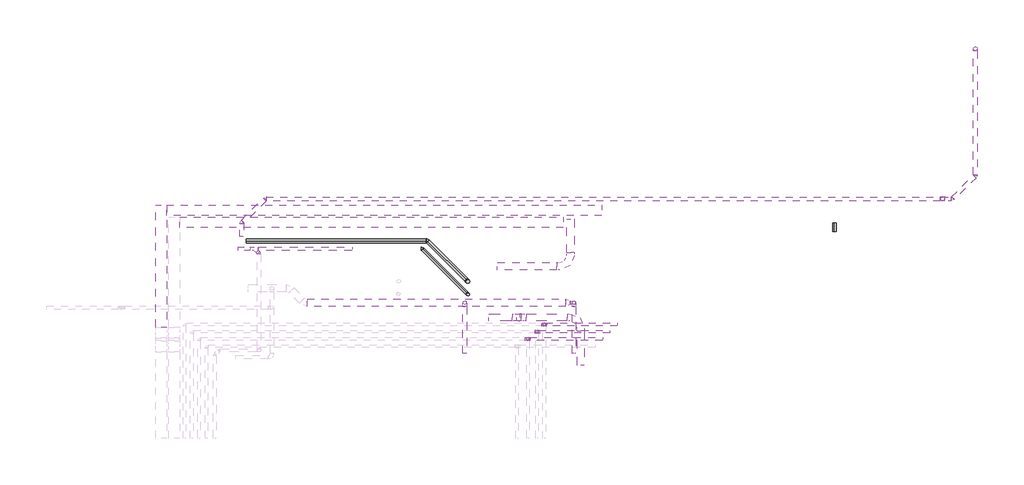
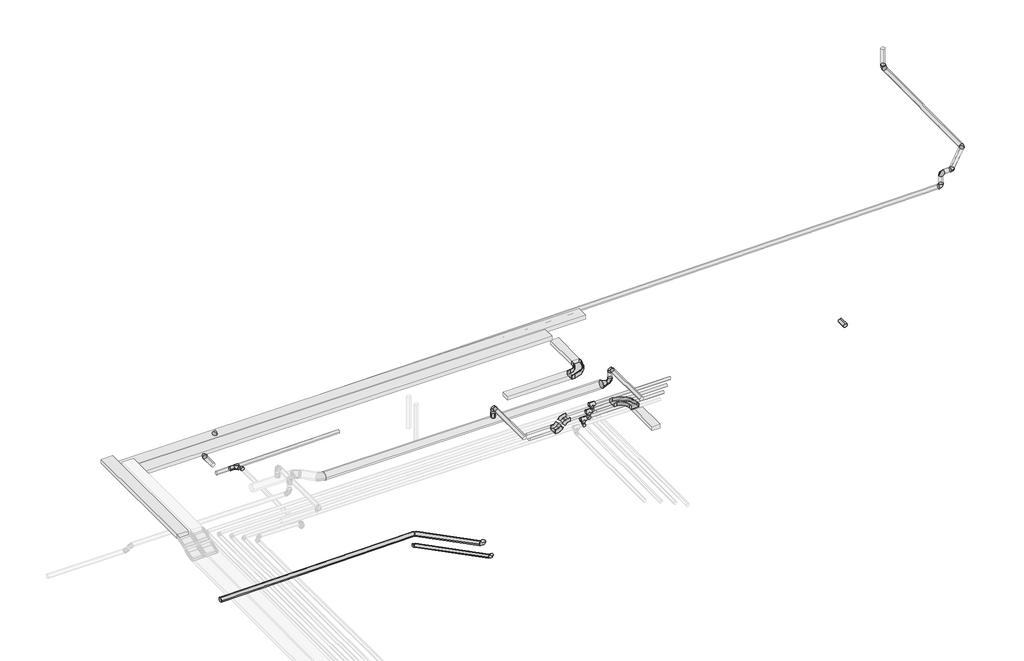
# One storey, part 5 of 5: 21 pipe segments, 19 pipe fittings, 9 cable carrier segments, 5 duct fittings, 5 duct segments, 4 cable carrier fittings.
"""IFC4 building model written with IfcOpenShell, lengths in millimetres."""

from ifc_helpers import new_model, si_unit, point, frame, frame_2d, origin, place, context, project, spatial, polyline, circle_curve, trimmed, segment, composite_curve, outline, extrude, transform, mapped, element, save
from components import m_codo_horizontal_de_canal_el_01cafb92, m_codo_vertical_exterior_de_canal_sf_2009c7b2, m_codo_vertical_interior_de_canal_sf_1a39cf6d, duct_fitting_e1dc29f6, ext_600b08cb, m_codo_redondo_ext_1_d_85067ab4, pipe_fitting_7b861d32, pipe_fitting_67d104e7, pipe_fitting_3454c7e7, pipe_fitting_51958308, pipe_fitting_f9aaa2fa, pipe_fitting_5746b48a, pipe_fitting_3a68447e, pipe_fitting_2586d89a, pipe_fitting_872c9969, t_soldadura_a_enchufe_ff252817

model = new_model("IFC4")

# Units and contexts
model_context = context("Model", 3, world=origin())
ifc_project = project(units=[si_unit("LENGTHUNIT", "METRE", prefix="MILLI")], contexts=[model_context])

# Site, building, storey
site = spatial("IfcSite", under=ifc_project)
building = spatial("IfcBuilding", under=site)
storey = spatial("IfcBuildingStorey", under=building, Name="Nivell 03 P03_PP", Elevation=18660.0)

# Cable carrier fittings
placement = place(None, origin())
m_codo_horizontal_de_canal_el_shape = m_codo_horizontal_de_canal_el_01cafb92(model_context)
element("IfcCableCarrierFitting", 1, ObjectType="M_Codo horizontal de canal : EL", at=placement, inside=storey, context=model_context, shape_type="MappedRepresentation", body=[
    mapped(m_codo_horizontal_de_canal_el_shape, transform((16260.4560007, 7993.9729991, 21470.0), x_axis=(1.0, 0.0, 0.0), y_axis=(0.0, 1.0, 0.0), z_axis=(0.0, 0.0, 1.0))),
])
element("IfcCableCarrierFitting", 2, ObjectType="M_Codo horizontal de canal : SF", at=placement, inside=storey, context=model_context, shape_type="MappedRepresentation", body=[
    mapped(m_codo_horizontal_de_canal_el_shape, transform((16540.4560007, 6585.5467988, 21470.0), x_axis=(0.0, 1.0, 0.0), y_axis=(-1.0, 0.0, 0.0), z_axis=(0.0, 0.0, 1.0))),
])
m_codo_vertical_exterior_de_canal_sf_shape = m_codo_vertical_exterior_de_canal_sf_2009c7b2(model_context)
element("IfcCableCarrierFitting", 3, ObjectType="M_Codo vertical exterior de canal : SF", at=placement, inside=storey, context=model_context, shape_type="MappedRepresentation", body=[
    mapped(m_codo_vertical_exterior_de_canal_sf_shape, transform((14940.4560007, 6585.5467988, 21470.0), x_axis=(-1.0, 0.0, 0.0), y_axis=(0.0, 0.0, -1.0), z_axis=(0.0, -1.0, 0.0))),
])
m_codo_vertical_interior_de_canal_sf_shape = m_codo_vertical_interior_de_canal_sf_1a39cf6d(model_context)
element("IfcCableCarrierFitting", 4, ObjectType="M_Codo vertical interior de canal : SF", at=placement, inside=storey, context=model_context, shape_type="MappedRepresentation", body=[
    mapped(m_codo_vertical_interior_de_canal_sf_shape, transform((14749.5371698, 6585.5467988, 21279.0811691), x_axis=(-0.707106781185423, 0.0, -0.7071067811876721), y_axis=(-0.7071067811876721, 0.0, 0.707106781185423), z_axis=(0.0, 1.0, 0.0))),
])

# Cable carrier segments
element("IfcCableCarrierSegment", 5, ObjectType="EL", at=placement, inside=storey, context=model_context, shape_type="SweptSolid", body=[
    extrude(outline(polyline([(17114.9442475, 9685.9660196), (17114.9442475, 9385.9660196), (5158.2381883, 9385.9660196), (5158.2381883, 9685.9660196), (17114.9442475, 9685.9660196)])), frame((0.0, 0.0, 21710.0), z_axis=(0.0, 0.0, 1.0), x_axis=(1.0, 0.0, 0.0)), (0.0, 0.0, 1.0), 100.0),
])
element("IfcCableCarrierSegment", 6, ObjectType="EL", at=placement, inside=storey, context=model_context, shape_type="SweptSolid", body=[
    extrude(outline(polyline([(5507.0671065, 9056.732053), (5507.0671065, 9356.732053), (16057.0671065, 9356.732053), (16057.0671065, 9056.732053), (5507.0671065, 9056.732053)])), frame((0.0, 0.0, 21710.0), z_axis=(0.0, 0.0, 1.0), x_axis=(1.0, 0.0, 0.0)), (0.0, 0.0, 1.0), 100.0),
])
element("IfcCableCarrierSegment", 7, ObjectType="EL", at=placement, inside=storey, context=model_context, shape_type="SweptSolid", body=[
    extrude(outline(polyline([(14245.4560007, 7893.9729991), (14245.4560007, 8093.9729991), (15885.4560007, 8093.9729991), (15885.4560007, 7893.9729991), (14245.4560007, 7893.9729991)])), frame((0.0, 0.0, 21420.0), z_axis=(0.0, 0.0, 1.0), x_axis=(1.0, 0.0, 0.0)), (0.0, 0.0, 1.0), 100.0),
])
element("IfcCableCarrierSegment", 8, ObjectType="EL", at=placement, inside=storey, context=model_context, shape_type="SweptSolid", body=[
    extrude(outline(polyline([(16360.4560007, 8368.9729991), (16160.4560007, 8368.9729991), (16160.4560007, 9293.9729991), (16360.4560007, 9293.9729991), (16360.4560007, 8368.9729991)])), frame((0.0, 0.0, 21420.0), z_axis=(0.0, 0.0, 1.0), x_axis=(1.0, 0.0, 0.0)), (0.0, 0.0, 1.0), 100.0),
])
element("IfcCableCarrierSegment", 9, ObjectType="EL", at=placement, inside=storey, context=model_context, shape_type="SweptSolid", body=[
    extrude(outline(polyline([(4858.2381883, 9685.9660196), (5158.2381883, 9685.9660196), (5158.2381883, 6318.3981673), (4858.2381883, 6318.3981673), (4858.2381883, 9685.9660196)])), frame((0.0, 0.0, 21910.0), z_axis=(0.0, 0.0, 1.0), x_axis=(1.0, 0.0, 0.0)), (0.0, 0.0, 1.0), 100.0),
])
element("IfcCableCarrierSegment", 10, ObjectType="SF", at=placement, inside=storey, context=model_context, shape_type="SweptSolid", body=[
    extrude(outline(polyline([(16165.4560007, 6685.5467988), (16165.4560007, 6485.5467988), (15040.3088145, 6485.5467988), (15040.3088145, 6685.5467988), (16165.4560007, 6685.5467988)])), frame((0.0, 0.0, 21420.0), z_axis=(0.0, 0.0, 1.0), x_axis=(1.0, 0.0, 0.0)), (0.0, 0.0, 1.0), 100.0),
])
element("IfcCableCarrierSegment", 11, ObjectType="SF", at=placement, inside=storey, context=model_context, shape_type="SweptSolid", body=[
    extrude(outline(polyline([(16640.4560007, 5265.5467988), (16440.4560007, 5265.5467988), (16440.4560007, 6210.5467988), (16640.4560007, 6210.5467988), (16640.4560007, 5265.5467988)])), frame((0.0, 0.0, 21420.0), z_axis=(0.0, 0.0, 1.0), x_axis=(1.0, 0.0, 0.0)), (0.0, 0.0, 1.0), 100.0),
])
element("IfcCableCarrierSegment", 12, ObjectType="SF", at=placement, inside=storey, context=model_context, shape_type="SweptSolid", body=[
    extrude(outline(polyline([(50.0000001, -11.8033989), (50.0000001, -211.8033989), (-50.0, -211.8033989), (-50.0, -11.8033989), (50.0000001, -11.8033989)])), frame((14820.1437715, 6697.3501977, 21349.6877708), z_axis=(0.7071067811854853, 0.0, 0.7071067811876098), x_axis=(0.7071067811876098, 0.0, -0.7071067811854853)), (0.0, 0.0, 1.0), 70.2943725),
])
element("IfcCableCarrierSegment", 13, ObjectType="SF", at=placement, inside=storey, context=model_context, shape_type="SweptSolid", body=[
    extrude(outline(polyline([(14649.6843561, 6685.5467988), (14649.6843561, 6485.5467988), (14009.5371698, 6485.5467988), (14009.5371698, 6685.5467988), (14649.6843561, 6685.5467988)])), frame((0.0, 0.0, 21229.0811691), z_axis=(0.0, 0.0, 1.0), x_axis=(1.0, 0.0, 0.0)), (0.0, 0.0, 1.0), 100.0),
])

# Duct fittings
duct_fitting_shape = duct_fitting_e1dc29f6(model_context)
element("IfcDuctFitting", 14, ObjectType="M_Transición redonda - Ángulo : EXT_45 graus", at=placement, inside=storey, context=model_context, shape_type="MappedRepresentation", body=[
    mapped(duct_fitting_shape, transform((16250.5896993, 6992.2199701, 21740.0), x_axis=(-1.0, 0.0, 0.0), y_axis=(0.0, -1.0, 0.0), z_axis=(0.0, 0.0, 1.0))),
])
ext_shape = ext_600b08cb(model_context)
element("IfcDuctFitting", 15, ObjectType="M_Toma de derivación redonda : EXT", at=placement, inside=storey, context=model_context, shape_type="MappedRepresentation", body=[
    mapped(ext_shape, transform((13350.5896993, 6992.2199701, 21840.0), x_axis=(0.0, 0.0, 1.0), y_axis=(1.0, 0.0, 0.0), z_axis=(0.0, 1.0, 0.0))),
])
m_codo_redondo_ext_1_d_shape = m_codo_redondo_ext_1_d_85067ab4(model_context)
element("IfcDuctFitting", 16, ObjectType="M_Codo redondo : EXT_1 D", at=placement, inside=storey, context=model_context, shape_type="MappedRepresentation", body=[
    mapped(m_codo_redondo_ext_1_d_shape, transform((16350.5896993, 6992.2199701, 22110.0), x_axis=(0.0, 1.0, 0.0), y_axis=(0.0, 0.0, -1.0), z_axis=(-1.0, 0.0, 0.0))),
])
element("IfcDuctFitting", 17, ObjectType="M_Codo redondo : EXT_1 D", at=placement, inside=storey, context=model_context, shape_type="MappedRepresentation", body=[
    mapped(m_codo_redondo_ext_1_d_shape, transform((13350.5896993, 6992.2199701, 22110.0), x_axis=(0.0, 1.0, 0.0), y_axis=(0.0, 0.0, -1.0), z_axis=(-1.0, 0.0, 0.0))),
])
element("IfcDuctFitting", 18, ObjectType="M_Codo redondo : EXT_1 D", at=placement, inside=storey, context=model_context, shape_type="MappedRepresentation", body=[
    mapped(m_codo_redondo_ext_1_d_shape, transform((16350.5896993, 6992.2199701, 21740.0), x_axis=(0.0, 0.0, -1.0), y_axis=(-1.0, 0.0, 0.0), z_axis=(0.0, 1.0, 0.0))),
])

# Duct segments
element("IfcDuctSegment", 19, ObjectType="EXT_Acer Galvanitzat - Rígid", at=placement, inside=storey, context=model_context, shape_type="SweptSolid", body=[
    extrude(outline(composite_curve([segment(trimmed(circle_curve(frame_2d((6992.2199701, 21740.0)), 100.0), [point((7092.2199701, 21740.0))], [point((6992.2199701, 21640.0))], False, "CARTESIAN"), True, "CONTINUOUS"), segment(trimmed(circle_curve(frame_2d((6992.2199701, 21740.0)), 100.0), [point((6992.2199701, 21640.0))], [point((6892.2199701, 21740.0))], False, "CARTESIAN"), True, "CONTINUOUS"), segment(trimmed(circle_curve(frame_2d((6992.2199701, 21740.0)), 100.0), [point((6892.2199701, 21740.0))], [point((6992.2199701, 21840.0))], False, "CARTESIAN"), True, "CONTINUOUS"), segment(trimmed(circle_curve(frame_2d((6992.2199701, 21740.0)), 100.0), [point((6992.2199701, 21840.0))], [point((7092.2199701, 21740.0))], False, "CARTESIAN"), True, "CONTINUOUS")], self_intersect=False)), frame((9013.4324117, 0.0, 0.0), z_axis=(1.0, 0.0, 0.0), x_axis=(0.0, 1.0, 0.0)), (0.0, 0.0, 1.0), 7116.4466094),
])
element("IfcDuctSegment", 20, ObjectType="EXT_Acer Galvanitzat - Rígid", at=placement, inside=storey, context=model_context, shape_type="SweptSolid", body=[
    extrude(outline(composite_curve([segment(trimmed(circle_curve(frame_2d((22110.0, 13350.5896993)), 50.0), [point((22110.0, 13300.5896993))], [point((22060.0, 13350.5896993))], False, "CARTESIAN"), True, "CONTINUOUS"), segment(trimmed(circle_curve(frame_2d((22110.0, 13350.5896993)), 50.0), [point((22060.0, 13350.5896993))], [point((22110.0, 13400.5896993))], False, "CARTESIAN"), True, "CONTINUOUS"), segment(trimmed(circle_curve(frame_2d((22110.0, 13350.5896993)), 50.0), [point((22110.0, 13400.5896993))], [point((22160.0, 13350.5896993))], False, "CARTESIAN"), True, "CONTINUOUS"), segment(trimmed(circle_curve(frame_2d((22110.0, 13350.5896993)), 50.0), [point((22160.0, 13350.5896993))], [point((22110.0, 13300.5896993))], False, "CARTESIAN"), True, "CONTINUOUS")], self_intersect=False)), frame((0.0, 5590.7319202, 0.0), z_axis=(0.0, 1.0, 0.0), x_axis=(0.0, 0.0, 1.0)), (0.0, 0.0, 1.0), 1301.48805),
])
element("IfcDuctSegment", 21, ObjectType="EXT_Acer Galvanitzat - Rígid", at=placement, inside=storey, context=model_context, shape_type="SweptSolid", body=[
    extrude(outline(composite_curve([segment(trimmed(circle_curve(frame_2d((13350.5896993, 6992.2199701)), 50.0), [point((13300.5896993, 6992.2199701))], [point((13350.5896993, 7042.2199701))], False, "CARTESIAN"), True, "CONTINUOUS"), segment(trimmed(circle_curve(frame_2d((13350.5896993, 6992.2199701)), 50.0), [point((13350.5896993, 7042.2199701))], [point((13400.5896993, 6992.2199701))], False, "CARTESIAN"), True, "CONTINUOUS"), segment(trimmed(circle_curve(frame_2d((13350.5896993, 6992.2199701)), 50.0), [point((13400.5896993, 6992.2199701))], [point((13350.5896993, 6942.2199701))], False, "CARTESIAN"), True, "CONTINUOUS"), segment(trimmed(circle_curve(frame_2d((13350.5896993, 6992.2199701)), 50.0), [point((13350.5896993, 6942.2199701))], [point((13300.5896993, 6992.2199701))], False, "CARTESIAN"), True, "CONTINUOUS")], self_intersect=False)), frame((0.0, 0.0, 21941.6), z_axis=(0.0, 0.0, 1.0), x_axis=(1.0, 0.0, 0.0)), (0.0, 0.0, 1.0), 68.4),
])
element("IfcDuctSegment", 22, ObjectType="EXT_Acer Galvanitzat - Rígid", at=placement, inside=storey, context=model_context, shape_type="SweptSolid", body=[
    extrude(outline(composite_curve([segment(trimmed(circle_curve(frame_2d((22110.0, 16350.5896993)), 50.0), [point((22110.0, 16300.5896993))], [point((22060.0, 16350.5896993))], False, "CARTESIAN"), True, "CONTINUOUS"), segment(trimmed(circle_curve(frame_2d((22110.0, 16350.5896993)), 50.0), [point((22060.0, 16350.5896993))], [point((22110.0, 16400.5896993))], False, "CARTESIAN"), True, "CONTINUOUS"), segment(trimmed(circle_curve(frame_2d((22110.0, 16350.5896993)), 50.0), [point((22110.0, 16400.5896993))], [point((22160.0, 16350.5896993))], False, "CARTESIAN"), True, "CONTINUOUS"), segment(trimmed(circle_curve(frame_2d((22110.0, 16350.5896993)), 50.0), [point((22160.0, 16350.5896993))], [point((22110.0, 16300.5896993))], False, "CARTESIAN"), True, "CONTINUOUS")], self_intersect=False)), frame((0.0, 5590.7319202, 0.0), z_axis=(0.0, 1.0, 0.0), x_axis=(0.0, 0.0, 1.0)), (0.0, 0.0, 1.0), 1301.48805),
])
element("IfcDuctSegment", 23, ObjectType="EXT_Acer Galvanitzat - Rígid", at=placement, inside=storey, context=model_context, shape_type="SweptSolid", body=[
    extrude(outline(composite_curve([segment(trimmed(circle_curve(frame_2d((16350.5896993, 6992.2199701)), 50.0), [point((16400.5896993, 6992.2199701))], [point((16350.5896993, 6942.2199701))], False, "CARTESIAN"), True, "CONTINUOUS"), segment(trimmed(circle_curve(frame_2d((16350.5896993, 6992.2199701)), 50.0), [point((16350.5896993, 6942.2199701))], [point((16300.5896993, 6992.2199701))], False, "CARTESIAN"), True, "CONTINUOUS"), segment(trimmed(circle_curve(frame_2d((16350.5896993, 6992.2199701)), 50.0), [point((16300.5896993, 6992.2199701))], [point((16350.5896993, 7042.2199701))], False, "CARTESIAN"), True, "CONTINUOUS"), segment(trimmed(circle_curve(frame_2d((16350.5896993, 6992.2199701)), 50.0), [point((16350.5896993, 7042.2199701))], [point((16400.5896993, 6992.2199701))], False, "CARTESIAN"), True, "CONTINUOUS")], self_intersect=False)), frame((0.0, 0.0, 21840.0), z_axis=(0.0, 0.0, 1.0), x_axis=(1.0, 0.0, 0.0)), (0.0, 0.0, 1.0), 170.0),
])

# Pipe fittings
pipe_fitting_shape = pipe_fitting_7b861d32(model_context)
element("IfcPipeFitting", 24, ObjectType="M_Codo - Genérico : Estándar", at=placement, inside=storey, context=model_context, shape_type="MappedRepresentation", body=[
    mapped(pipe_fitting_shape, transform((12180.1662457, 8480.5502052, 17855.9795799), x_axis=(-0.7070714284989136, 0.7070714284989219, -0.0099995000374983), y_axis=(-0.7070714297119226, -0.7071300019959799, -0.004141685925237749), z_axis=(-0.009999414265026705, 0.004141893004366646, 0.9999414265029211))),
])
pipe_fitting_2_shape = pipe_fitting_67d104e7(model_context)
element("IfcPipeFitting", 25, ObjectType="M_Codo - Genérico : Estándar", at=placement, inside=storey, context=model_context, shape_type="MappedRepresentation", body=[
    mapped(pipe_fitting_2_shape, transform((27389.4059114, 10484.655764, 22124.9769213), x_axis=(0.0, -0.9999500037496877, -0.009999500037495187), y_axis=(0.9999914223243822, -4.141685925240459e-05, 0.004141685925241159), z_axis=(-0.004141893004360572, -0.009999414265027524, 0.9999414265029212))),
])
element("IfcPipeFitting", 26, ObjectType="M_Codo - Genérico : Estándar", at=placement, inside=storey, context=model_context, shape_type="MappedRepresentation", body=[
    mapped(pipe_fitting_2_shape, transform((7870.0068596, 9850.5932442, 21576.0671248), x_axis=(0.7070714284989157, 0.7070714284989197, 0.009999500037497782), y_axis=(-0.7070714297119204, 0.7071300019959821, -0.004141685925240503), z_axis=(-0.009999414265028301, -0.004141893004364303, 0.9999414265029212))),
])
element("IfcPipeFitting", 27, ObjectType="M_Codo - Genérico : Estándar", at=placement, inside=storey, context=model_context, shape_type="MappedRepresentation", body=[
    mapped(pipe_fitting_2_shape, transform((7222.8096734, 9203.3949709, 21566.9143667), x_axis=(0.0, 0.9999500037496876, 0.009999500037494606), y_axis=(-0.9999914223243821, 4.141685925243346e-05, -0.004141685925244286), z_axis=(-0.004141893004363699, -0.009999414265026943, 0.9999414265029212))),
])
element("IfcPipeFitting", 28, ObjectType="M_Codo - Genérico : Estándar", at=placement, inside=storey, context=model_context, shape_type="MappedRepresentation", body=[
    mapped(pipe_fitting_2_shape, transform((12318.5757792, 8697.1771083, 17994.2175715), x_axis=(0.9999500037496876, 0.0, 0.009999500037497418), y_axis=(4.141685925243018e-05, 0.9999914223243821, -0.004141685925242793), z_axis=(-0.009999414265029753, 0.004141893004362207, 0.9999414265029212))),
])
pipe_fitting_3_shape = pipe_fitting_3454c7e7(model_context)
element("IfcPipeFitting", 29, ObjectType="M_Codo - Genérico : Estándar", at=placement, inside=storey, context=model_context, shape_type="MappedRepresentation", body=[
    mapped(pipe_fitting_3_shape, transform((27389.4059114, 13986.9636366, 22160.0), x_axis=(0.0, 0.0, -1.0), y_axis=(0.0, 1.0, 0.0), z_axis=(1.0, 0.0, 0.0))),
])
element("IfcPipeFitting", 30, ObjectType="M_Codo - Genérico : Estándar", at=placement, inside=storey, context=model_context, shape_type="MappedRepresentation", body=[
    mapped(pipe_fitting_3_shape, transform((26487.5503889, 9850.5932442, 21762.2425601), x_axis=(0.9999500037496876, 0.0, 0.00999950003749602), y_axis=(0.00999950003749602, 0.0, -0.9999500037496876), z_axis=(0.0, 1.0, 0.0))),
])
element("IfcPipeFitting", 31, ObjectType="M_Codo - Genérico : Estándar", at=placement, inside=storey, context=model_context, shape_type="MappedRepresentation", body=[
    mapped(pipe_fitting_3_shape, transform((13434.5619983, 7581.1908892, 18010.0), x_axis=(0.7070714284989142, -0.7070714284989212, 0.00999950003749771), y_axis=(0.007070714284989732, -0.007070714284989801, -0.9999500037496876), z_axis=(0.707106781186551, 0.707106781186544, 0.0))),
])
pipe_fitting_4_shape = pipe_fitting_51958308(model_context)
element("IfcPipeFitting", 32, ObjectType="M_Codo - Genérico : Estándar", at=placement, inside=storey, context=model_context, shape_type="MappedRepresentation", body=[
    mapped(pipe_fitting_4_shape, transform((13440.7814256, 7219.9350253, 17873.8073707), x_axis=(0.7070714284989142, -0.7070714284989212, 0.00999950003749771), y_axis=(0.007070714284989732, -0.007070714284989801, -0.9999500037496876), z_axis=(0.707106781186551, 0.707106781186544, 0.0))),
])
pipe_fitting_5_shape = pipe_fitting_f9aaa2fa(model_context)
element("IfcPipeFitting", 33, ObjectType="M_Codo - Genérico : Estándar", at=placement, inside=storey, context=model_context, shape_type="MappedRepresentation", body=[
    mapped(pipe_fitting_5_shape, transform((26755.352721, 9850.6025322, 22116.0030113), x_axis=(-0.7070713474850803, -0.7070713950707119, -0.010007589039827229), y_axis=(0.7070715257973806, -0.7071299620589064, 0.0041320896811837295), z_axis=(-0.009998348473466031, -0.004154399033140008, 0.9999413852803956))),
])
pipe_fitting_6_shape = pipe_fitting_5746b48a(model_context)
element("IfcPipeFitting", 34, ObjectType="M_Codo - Genérico : Estándar", at=placement, inside=storey, context=model_context, shape_type="MappedRepresentation", body=[
    mapped(pipe_fitting_6_shape, transform((26487.5503889, 9850.6025322, 22113.3252733), x_axis=(-0.9999500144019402, 0.0, -0.009998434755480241), y_axis=(-0.009998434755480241, 0.0, 0.9999500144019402), z_axis=(0.0, 1.0, 0.0))),
])
pipe_fitting_7_shape = pipe_fitting_3a68447e(model_context)
element("IfcPipeFitting", 35, ObjectType="M_Codo - Genérico : Estándar", at=placement, inside=storey, context=model_context, shape_type="MappedRepresentation", body=[
    mapped(pipe_fitting_7_shape, transform((15087.4352568, 5994.2427547, 21622.5), x_axis=(0.0, 0.0, -1.0), y_axis=(0.0, -1.0, 0.0), z_axis=(-1.0, 0.0, 0.0))),
])
element("IfcPipeFitting", 36, ObjectType="M_Codo - Genérico : Estándar", at=placement, inside=storey, context=model_context, shape_type="MappedRepresentation", body=[
    mapped(pipe_fitting_7_shape, transform((15337.4352568, 6194.2427547, 21622.5), x_axis=(0.0, 0.0, -1.0), y_axis=(0.0, -1.0, 0.0), z_axis=(-1.0, 0.0, 0.0))),
])
element("IfcPipeFitting", 37, ObjectType="M_Codo - Genérico : Estándar", at=placement, inside=storey, context=model_context, shape_type="MappedRepresentation", body=[
    mapped(pipe_fitting_7_shape, transform((15537.4352568, 6394.2427547, 21622.5), x_axis=(0.0, 0.0, -1.0), y_axis=(0.0, -1.0, 0.0), z_axis=(-1.0, 0.0, 0.0))),
])
pipe_fitting_8_shape = pipe_fitting_2586d89a(model_context)
element("IfcPipeFitting", 38, ObjectType="M_Codo - Genérico : Estándar", at=placement, inside=storey, context=model_context, shape_type="MappedRepresentation", body=[
    mapped(pipe_fitting_8_shape, transform((7694.7851552, 8352.4015426, 21589.3520633), x_axis=(-1.0272484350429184e-06, 0.9999500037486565, -0.009999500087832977), y_axis=(-0.9999914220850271, -4.2444624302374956e-05, -0.004141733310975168), z_axis=(-0.004141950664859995, 0.009999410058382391, 0.9999414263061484))),
])
pipe_fitting_9_shape = pipe_fitting_872c9969(model_context)
element("IfcPipeFitting", 39, ObjectType="M_Te - Genérica : Estándar", at=placement, inside=storey, context=model_context, shape_type="MappedRepresentation", body=[
    mapped(pipe_fitting_9_shape, transform((7566.4895317, 8480.6962959, 21587.5376996), x_axis=(0.9999500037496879, 0.0, 0.009999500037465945), y_axis=(4.141632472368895e-05, 0.9999914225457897, -0.004141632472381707), z_axis=(-0.009999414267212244, 0.004141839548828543, 0.999941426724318))),
])
t_soldadura_a_enchufe_shape = t_soldadura_a_enchufe_ff252817(model_context)
element("IfcPipeFitting", 40, ObjectType="T-Soldadura a enchufe : Estándar", at=placement, inside=storey, context=model_context, shape_type="MappedRepresentation", body=[
    mapped(t_soldadura_a_enchufe_shape, transform((15087.4352568, 5994.2427547, 21772.5), x_axis=(-1.0, 0.0, 0.0), y_axis=(0.0, 0.0, 1.0), z_axis=(0.0, 1.0, 0.0))),
])
element("IfcPipeFitting", 41, ObjectType="T-Soldadura a enchufe : Estándar", at=placement, inside=storey, context=model_context, shape_type="MappedRepresentation", body=[
    mapped(t_soldadura_a_enchufe_shape, transform((15337.4352568, 6194.2427547, 21772.5), x_axis=(-1.0, 0.0, 0.0), y_axis=(0.0, 0.0, 1.0), z_axis=(0.0, 1.0, 0.0))),
])
element("IfcPipeFitting", 42, ObjectType="T-Soldadura a enchufe : Estándar", at=placement, inside=storey, context=model_context, shape_type="MappedRepresentation", body=[
    mapped(t_soldadura_a_enchufe_shape, transform((15537.4352568, 6394.2427547, 21772.5), x_axis=(-1.0, 0.0, 0.0), y_axis=(0.0, 0.0, 1.0), z_axis=(0.0, 1.0, 0.0))),
])

# Pipe segments
element("IfcPipeSegment", 43, ObjectType="PVC_Baixant", at=placement, inside=storey, context=model_context, shape_type="SweptSolid", body=[
    extrude(outline(composite_curve([segment(trimmed(circle_curve(frame_2d((27389.4059114, 13986.9636366)), 55.0), [point((27334.4059114, 13986.9636366))], [point((27389.4059114, 14041.9636366))], False, "CARTESIAN"), True, "CONTINUOUS"), segment(trimmed(circle_curve(frame_2d((27389.4059114, 13986.9636366)), 55.0), [point((27389.4059114, 14041.9636366))], [point((27444.4059114, 13986.9636366))], False, "CARTESIAN"), True, "CONTINUOUS"), segment(trimmed(circle_curve(frame_2d((27389.4059114, 13986.9636366)), 55.0), [point((27444.4059114, 13986.9636366))], [point((27389.4059114, 13931.9636366))], False, "CARTESIAN"), True, "CONTINUOUS"), segment(trimmed(circle_curve(frame_2d((27389.4059114, 13986.9636366)), 55.0), [point((27389.4059114, 13931.9636366))], [point((27334.4059114, 13986.9636366))], False, "CARTESIAN"), True, "CONTINUOUS")], self_intersect=False)), frame((0.0, 0.0, 22222.3112718), z_axis=(0.0, 0.0, 1.0), x_axis=(1.0, 0.0, 0.0)), (0.0, 0.0, 1.0), 437.6887282),
])
element("IfcPipeSegment", 44, ObjectType="PVC_Baixant", at=placement, inside=storey, context=model_context, shape_type="SweptSolid", body=[
    extrude(outline(composite_curve([segment(trimmed(circle_curve(frame_2d((0.0, -55.0)), 55.0), [point((-55.0, -55.0))], [point((0.0, 0.0))], False, "CARTESIAN"), True, "CONTINUOUS"), segment(trimmed(circle_curve(frame_2d((0.0, -55.0)), 55.0), [point((0.0, 0.0))], [point((55.0, -55.0))], False, "CARTESIAN"), True, "CONTINUOUS"), segment(trimmed(circle_curve(frame_2d((0.0, -55.0)), 55.0), [point((55.0, -55.0))], [point((0.0, -110.0))], False, "CARTESIAN"), True, "CONTINUOUS"), segment(trimmed(circle_curve(frame_2d((0.0, -55.0)), 55.0), [point((0.0, -110.0))], [point((-55.0, -55.0))], False, "CARTESIAN"), True, "CONTINUOUS")], self_intersect=False)), frame((27389.4059114, 10511.2724723, 22070.2403384), z_axis=(0.0, 0.9999500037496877, 0.009999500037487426), x_axis=(1.0, 0.0, 0.0)), (0.0, 0.0, 1.0), 3414.1036727),
])
element("IfcPipeSegment", 45, ObjectType="PVC_Baixant", at=placement, inside=storey, context=model_context, shape_type="SweptSolid", body=[
    extrude(outline(composite_curve([segment(trimmed(circle_curve(frame_2d((0.0, -55.0)), 55.0), [point((-54.997246, -54.4496102))], [point((0.5503898, -0.0027539))], False, "CARTESIAN"), True, "CONTINUOUS"), segment(trimmed(circle_curve(frame_2d((0.0, -55.0)), 55.0), [point((0.5503898, -0.0027539))], [point((54.997246, -55.5503898))], False, "CARTESIAN"), True, "CONTINUOUS"), segment(trimmed(circle_curve(frame_2d((0.0, -55.0)), 55.0), [point((54.997246, -55.5503898))], [point((-0.5503899, -109.9972461))], False, "CARTESIAN"), True, "CONTINUOUS"), segment(trimmed(circle_curve(frame_2d((0.0, -55.0)), 55.0), [point((-0.5503899, -109.9972461))], [point((-54.997246, -54.4496102))], False, "CARTESIAN"), True, "CONTINUOUS")], self_intersect=False)), frame((26773.7846855, 9869.8128666, 22061.2693976), z_axis=(0.7070713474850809, 0.7070713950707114, 0.010007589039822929), x_axis=(0.7071422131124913, -0.707000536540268, -0.010006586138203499)), (0.0, 0.0, 1.0), 844.5954746),
])
element("IfcPipeSegment", 46, ObjectType="PVC_Baixant", at=placement, inside=storey, context=model_context, shape_type="SweptSolid", body=[
    extrude(outline(composite_curve([segment(trimmed(circle_curve(frame_2d((0.0, -55.0)), 55.0), [point((0.0, 0.0))], [point((55.0, -55.0))], False, "CARTESIAN"), True, "CONTINUOUS"), segment(trimmed(circle_curve(frame_2d((0.0, -55.0)), 55.0), [point((55.0, -55.0))], [point((0.0, -110.0))], False, "CARTESIAN"), True, "CONTINUOUS"), segment(trimmed(circle_curve(frame_2d((0.0, -55.0)), 55.0), [point((0.0, -110.0))], [point((-55.0, -55.0))], False, "CARTESIAN"), True, "CONTINUOUS"), segment(trimmed(circle_curve(frame_2d((0.0, -55.0)), 55.0), [point((-55.0, -55.0))], [point((0.0, 0.0))], False, "CARTESIAN"), True, "CONTINUOUS")], self_intersect=False)), frame((7896.0735954, 9905.5932442, 21576.3277921), z_axis=(0.9999500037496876, 0.0, 0.009999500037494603), x_axis=(0.009999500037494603, 0.0, -0.9999500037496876)), (0.0, 0.0, 1.0), 18530.0950724),
])
element("IfcPipeSegment", 47, ObjectType="PVC_Baixant", at=placement, inside=storey, context=model_context, shape_type="SweptSolid", body=[
    extrude(outline(composite_curve([segment(trimmed(circle_curve(frame_2d((0.0, -55.0000001)), 55.0), [point((-54.9972505, -54.450056))], [point((0.549944, -0.0027495))], False, "CARTESIAN"), True, "CONTINUOUS"), segment(trimmed(circle_curve(frame_2d((0.0, -55.0000001)), 55.0), [point((0.549944, -0.0027495))], [point((54.9972505, -55.5499441))], False, "CARTESIAN"), True, "CONTINUOUS"), segment(trimmed(circle_curve(frame_2d((0.0, -55.0000001)), 55.0), [point((54.9972505, -55.5499441))], [point((-0.5499441, -109.9972505))], False, "CARTESIAN"), True, "CONTINUOUS"), segment(trimmed(circle_curve(frame_2d((0.0, -55.0000001)), 55.0), [point((-0.5499441, -109.9972505))], [point((-54.9972505, -54.450056))], False, "CARTESIAN"), True, "CONTINUOUS")], self_intersect=False)), frame((7241.2416391, 9222.6046755, 21512.1805332), z_axis=(0.7070707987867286, 0.707072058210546, 0.009999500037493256), x_axis=(0.7071427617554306, -0.707000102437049, -0.009998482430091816)), (0.0, 0.0, 1.0), 863.1854914),
])
element("IfcPipeSegment", 48, ObjectType="PVC_Baixant", at=placement, inside=storey, context=model_context, shape_type="SweptSolid", body=[
    extrude(outline(composite_curve([segment(trimmed(circle_curve(frame_2d((0.0, -55.0)), 55.0), [point((0.0, 0.0))], [point((55.0, -55.0))], False, "CARTESIAN"), True, "CONTINUOUS"), segment(trimmed(circle_curve(frame_2d((0.0, -55.0)), 55.0), [point((55.0, -55.0))], [point((0.0, -110.0))], False, "CARTESIAN"), True, "CONTINUOUS"), segment(trimmed(circle_curve(frame_2d((0.0, -55.0)), 55.0), [point((0.0, -110.0))], [point((-55.0, -55.0))], False, "CARTESIAN"), True, "CONTINUOUS"), segment(trimmed(circle_curve(frame_2d((0.0, -55.0)), 55.0), [point((-55.0, -55.0))], [point((0.0, 0.0))], False, "CARTESIAN"), True, "CONTINUOUS")], self_intersect=False)), frame((26549.8586125, 9905.6025322, 22113.9482891), z_axis=(0.9999500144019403, 0.0, 0.009998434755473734), x_axis=(0.009998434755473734, 0.0, -0.9999500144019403)), (0.0, 0.0, 1.0), 179.4363416),
])
element("IfcPipeSegment", 49, ObjectType="PVC_Baixant", at=placement, inside=storey, context=model_context, shape_type="SweptSolid", body=[
    extrude(outline(composite_curve([segment(trimmed(circle_curve(frame_2d((0.0, 55.0)), 55.0), [point((-55.0, 55.0))], [point((0.0, 110.0))], False, "CARTESIAN"), True, "CONTINUOUS"), segment(trimmed(circle_curve(frame_2d((0.0, 55.0)), 55.0), [point((0.0, 110.0))], [point((55.0, 55.0))], False, "CARTESIAN"), True, "CONTINUOUS"), segment(trimmed(circle_curve(frame_2d((0.0, 55.0)), 55.0), [point((55.0, 55.0))], [point((0.0, 0.0))], False, "CARTESIAN"), True, "CONTINUOUS"), segment(trimmed(circle_curve(frame_2d((0.0, 55.0)), 55.0), [point((0.0, 0.0))], [point((-55.0, 55.0))], False, "CARTESIAN"), True, "CONTINUOUS")], self_intersect=False)), frame((26487.5503889, 9795.5932442, 21824.5560876), z_axis=(0.0, 4.1014092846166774e-05, 0.9999999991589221), x_axis=(1.0, 0.0, 0.0)), (0.0, 0.0, 1.0), 226.4600963),
])
element("IfcPipeSegment", 50, ObjectType="PVC_Baixant", at=placement, inside=storey, context=model_context, shape_type="SweptSolid", body=[
    extrude(outline(composite_curve([segment(trimmed(circle_curve(frame_2d((0.0, -55.0)), 55.0), [point((-55.0, -55.0))], [point((0.0, 0.0))], False, "CARTESIAN"), True, "CONTINUOUS"), segment(trimmed(circle_curve(frame_2d((0.0, -55.0)), 55.0), [point((0.0, 0.0))], [point((55.0, -55.0))], False, "CARTESIAN"), True, "CONTINUOUS"), segment(trimmed(circle_curve(frame_2d((0.0, -55.0)), 55.0), [point((55.0, -55.0))], [point((0.0, -110.0000001))], False, "CARTESIAN"), True, "CONTINUOUS"), segment(trimmed(circle_curve(frame_2d((0.0, -55.0)), 55.0), [point((0.0, -110.0000001))], [point((-55.0, -55.0))], False, "CARTESIAN"), True, "CONTINUOUS")], self_intersect=False)), frame((7222.8096734, 8816.1056185, 21508.0387232), z_axis=(0.0, 0.999950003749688, 0.009999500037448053), x_axis=(1.0, 0.0, 0.0)), (0.0, 0.0, 1.0), 361.7906773),
])
element("IfcPipeSegment", 51, ObjectType="PVC_Baixant", at=placement, inside=storey, context=model_context, shape_type="SweptSolid", body=[
    extrude(outline(composite_curve([segment(trimmed(circle_curve(frame_2d((0.0, -55.0)), 55.0), [point((54.9972505, -54.450055))], [point((0.549945, -109.9972505))], False, "CARTESIAN"), True, "CONTINUOUS"), segment(trimmed(circle_curve(frame_2d((0.0, -55.0)), 55.0), [point((0.549945, -109.9972505))], [point((-54.9972505, -55.549945))], False, "CARTESIAN"), True, "CONTINUOUS"), segment(trimmed(circle_curve(frame_2d((0.0, -55.0)), 55.0), [point((-54.9972505, -55.549945))], [point((-0.549945, -0.0027495))], False, "CARTESIAN"), True, "CONTINUOUS"), segment(trimmed(circle_curve(frame_2d((0.0, -55.0)), 55.0), [point((-0.549945, -0.0027495))], [point((54.9972505, -54.450055))], False, "CARTESIAN"), True, "CONTINUOUS")], self_intersect=False)), frame((12337.0077448, 8679.5228824, 18049.4727397), z_axis=(0.7070714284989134, -0.707071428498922, 0.009999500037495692), x_axis=(0.7071421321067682, 0.7070007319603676, -0.009998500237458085)), (0.0, 0.0, 1.0), 1489.9424458),
])
element("IfcPipeSegment", 52, ObjectType="PVC_Baixant", at=placement, inside=storey, context=model_context, shape_type="SweptSolid", body=[
    extrude(outline(composite_curve([segment(trimmed(circle_curve(frame_2d((0.0, -55.0)), 55.0), [point((0.0, 0.0))], [point((55.0, -55.0))], False, "CARTESIAN"), True, "CONTINUOUS"), segment(trimmed(circle_curve(frame_2d((0.0, -55.0)), 55.0), [point((55.0, -55.0))], [point((0.0, -110.0))], False, "CARTESIAN"), True, "CONTINUOUS"), segment(trimmed(circle_curve(frame_2d((0.0, -55.0)), 55.0), [point((0.0, -110.0))], [point((-55.0, -55.0))], False, "CARTESIAN"), True, "CONTINUOUS"), segment(trimmed(circle_curve(frame_2d((0.0, -55.0)), 55.0), [point((-55.0, -55.0))], [point((0.0, 0.0))], False, "CARTESIAN"), True, "CONTINUOUS")], self_intersect=False)), frame((7340.5229136, 8752.1771083, 17944.4370429), z_axis=(0.9999500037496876, 0.0, 0.009999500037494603), x_axis=(0.009999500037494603, 0.0, -0.9999500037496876)), (0.0, 0.0, 1.0), 4952.2337229),
])
element("IfcPipeSegment", 53, ObjectType="PVC_Baixant", at=placement, inside=storey, context=model_context, shape_type="SweptSolid", body=[
    extrude(outline(composite_curve([segment(trimmed(circle_curve(frame_2d((0.0, -45.0)), 45.0), [point((44.9977504, -44.550045))], [point((0.449955, -89.9977504))], False, "CARTESIAN"), True, "CONTINUOUS"), segment(trimmed(circle_curve(frame_2d((0.0, -45.0)), 45.0), [point((0.449955, -89.9977504))], [point((-44.9977504, -45.449955))], False, "CARTESIAN"), True, "CONTINUOUS"), segment(trimmed(circle_curve(frame_2d((0.0, -45.0)), 45.0), [point((-44.9977504, -45.449955))], [point((-0.449955, -0.0022497))], False, "CARTESIAN"), True, "CONTINUOUS"), segment(trimmed(circle_curve(frame_2d((0.0, -45.0)), 45.0), [point((-0.449955, -0.0022497))], [point((44.9977504, -44.550045))], False, "CARTESIAN"), True, "CONTINUOUS")], self_intersect=False)), frame((12195.5085234, 8465.84426, 17901.1920532), z_axis=(0.7070714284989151, -0.7070714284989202, 0.009999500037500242), x_axis=(0.7071421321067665, 0.7070007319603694, -0.009998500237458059)), (0.0, 0.0, 1.0), 1709.3036347),
])
element("IfcPipeSegment", 54, ObjectType="PPR_CLI_Aquatherm Blue Pipe", at=placement, inside=storey, context=model_context, shape_type="SweptSolid", body=[
    extrude(outline(composite_curve([segment(trimmed(circle_curve(frame_2d((5994.2427547, 21772.5)), 37.5), [point((5956.7427547, 21772.5))], [point((5994.2427547, 21810.0))], False, "CARTESIAN"), True, "CONTINUOUS"), segment(trimmed(circle_curve(frame_2d((5994.2427547, 21772.5)), 37.5), [point((5994.2427547, 21810.0))], [point((6031.7427547, 21772.5))], False, "CARTESIAN"), True, "CONTINUOUS"), segment(trimmed(circle_curve(frame_2d((5994.2427547, 21772.5)), 37.5), [point((6031.7427547, 21772.5))], [point((5994.2427547, 21735.0))], False, "CARTESIAN"), True, "CONTINUOUS"), segment(trimmed(circle_curve(frame_2d((5994.2427547, 21772.5)), 37.5), [point((5994.2427547, 21735.0))], [point((5956.7427547, 21772.5))], False, "CARTESIAN"), True, "CONTINUOUS")], self_intersect=False)), frame((15125.9352568, 0.0, 0.0), z_axis=(1.0, 0.0, 0.0), x_axis=(0.0, 1.0, 0.0)), (0.0, 0.0, 1.0), 2016.3840359),
])
element("IfcPipeSegment", 55, ObjectType="PPR_CLI_Aquatherm Blue Pipe", at=placement, inside=storey, context=model_context, shape_type="SweptSolid", body=[
    extrude(outline(composite_curve([segment(trimmed(circle_curve(frame_2d((6194.2427547, 21772.5)), 37.5), [point((6156.7427547, 21772.5))], [point((6194.2427547, 21810.0))], False, "CARTESIAN"), True, "CONTINUOUS"), segment(trimmed(circle_curve(frame_2d((6194.2427547, 21772.5)), 37.5), [point((6194.2427547, 21810.0))], [point((6231.7427547, 21772.5))], False, "CARTESIAN"), True, "CONTINUOUS"), segment(trimmed(circle_curve(frame_2d((6194.2427547, 21772.5)), 37.5), [point((6231.7427547, 21772.5))], [point((6194.2427547, 21735.0))], False, "CARTESIAN"), True, "CONTINUOUS"), segment(trimmed(circle_curve(frame_2d((6194.2427547, 21772.5)), 37.5), [point((6194.2427547, 21735.0))], [point((6156.7427547, 21772.5))], False, "CARTESIAN"), True, "CONTINUOUS")], self_intersect=False)), frame((15375.9352568, 0.0, 0.0), z_axis=(1.0, 0.0, 0.0), x_axis=(0.0, 1.0, 0.0)), (0.0, 0.0, 1.0), 1966.3840359),
])
element("IfcPipeSegment", 56, ObjectType="PPR_CLI_Aquatherm Blue Pipe", at=placement, inside=storey, context=model_context, shape_type="SweptSolid", body=[
    extrude(outline(composite_curve([segment(trimmed(circle_curve(frame_2d((6394.2427547, 21772.5)), 37.5), [point((6356.7427547, 21772.5))], [point((6394.2427547, 21810.0))], False, "CARTESIAN"), True, "CONTINUOUS"), segment(trimmed(circle_curve(frame_2d((6394.2427547, 21772.5)), 37.5), [point((6394.2427547, 21810.0))], [point((6431.7427547, 21772.5))], False, "CARTESIAN"), True, "CONTINUOUS"), segment(trimmed(circle_curve(frame_2d((6394.2427547, 21772.5)), 37.5), [point((6431.7427547, 21772.5))], [point((6394.2427547, 21735.0))], False, "CARTESIAN"), True, "CONTINUOUS"), segment(trimmed(circle_curve(frame_2d((6394.2427547, 21772.5)), 37.5), [point((6394.2427547, 21735.0))], [point((6356.7427547, 21772.5))], False, "CARTESIAN"), True, "CONTINUOUS")], self_intersect=False)), frame((15575.9352568, 0.0, 0.0), z_axis=(1.0, 0.0, 0.0), x_axis=(0.0, 1.0, 0.0)), (0.0, 0.0, 1.0), 1966.3840359),
])
element("IfcPipeSegment", 57, ObjectType="PPR_CLI_Aquatherm Blue Pipe", at=placement, inside=storey, context=model_context, shape_type="SweptSolid", body=[
    extrude(outline(composite_curve([segment(trimmed(circle_curve(frame_2d((15087.4352568, 5994.2427547)), 37.5), [point((15124.9352568, 5994.2427547))], [point((15087.4352568, 5956.7427547))], False, "CARTESIAN"), True, "CONTINUOUS"), segment(trimmed(circle_curve(frame_2d((15087.4352568, 5994.2427547)), 37.5), [point((15087.4352568, 5956.7427547))], [point((15049.9352568, 5994.2427547))], False, "CARTESIAN"), True, "CONTINUOUS"), segment(trimmed(circle_curve(frame_2d((15087.4352568, 5994.2427547)), 37.5), [point((15049.9352568, 5994.2427547))], [point((15087.4352568, 6031.7427547))], False, "CARTESIAN"), True, "CONTINUOUS"), segment(trimmed(circle_curve(frame_2d((15087.4352568, 5994.2427547)), 37.5), [point((15087.4352568, 6031.7427547))], [point((15124.9352568, 5994.2427547))], False, "CARTESIAN"), True, "CONTINUOUS")], self_intersect=False)), frame((0.0, 0.0, 21667.9375), z_axis=(0.0, 0.0, 1.0), x_axis=(1.0, 0.0, 0.0)), (0.0, 0.0, 1.0), 66.0625),
])
element("IfcPipeSegment", 58, ObjectType="PPR_CLI_Aquatherm Blue Pipe", at=placement, inside=storey, context=model_context, shape_type="SweptSolid", body=[
    extrude(outline(composite_curve([segment(trimmed(circle_curve(frame_2d((15337.4352568, 6194.2427547)), 37.5), [point((15374.9352568, 6194.2427547))], [point((15337.4352568, 6156.7427547))], False, "CARTESIAN"), True, "CONTINUOUS"), segment(trimmed(circle_curve(frame_2d((15337.4352568, 6194.2427547)), 37.5), [point((15337.4352568, 6156.7427547))], [point((15299.9352568, 6194.2427547))], False, "CARTESIAN"), True, "CONTINUOUS"), segment(trimmed(circle_curve(frame_2d((15337.4352568, 6194.2427547)), 37.5), [point((15299.9352568, 6194.2427547))], [point((15337.4352568, 6231.7427547))], False, "CARTESIAN"), True, "CONTINUOUS"), segment(trimmed(circle_curve(frame_2d((15337.4352568, 6194.2427547)), 37.5), [point((15337.4352568, 6231.7427547))], [point((15374.9352568, 6194.2427547))], False, "CARTESIAN"), True, "CONTINUOUS")], self_intersect=False)), frame((0.0, 0.0, 21667.9375), z_axis=(0.0, 0.0, 1.0), x_axis=(1.0, 0.0, 0.0)), (0.0, 0.0, 1.0), 66.0625),
])
element("IfcPipeSegment", 59, ObjectType="PPR_CLI_Aquatherm Blue Pipe", at=placement, inside=storey, context=model_context, shape_type="SweptSolid", body=[
    extrude(outline(composite_curve([segment(trimmed(circle_curve(frame_2d((15537.4352568, 6394.2427547)), 37.5), [point((15574.9352568, 6394.2427547))], [point((15537.4352568, 6356.7427547))], False, "CARTESIAN"), True, "CONTINUOUS"), segment(trimmed(circle_curve(frame_2d((15537.4352568, 6394.2427547)), 37.5), [point((15537.4352568, 6356.7427547))], [point((15499.9352568, 6394.2427547))], False, "CARTESIAN"), True, "CONTINUOUS"), segment(trimmed(circle_curve(frame_2d((15537.4352568, 6394.2427547)), 37.5), [point((15499.9352568, 6394.2427547))], [point((15537.4352568, 6431.7427547))], False, "CARTESIAN"), True, "CONTINUOUS"), segment(trimmed(circle_curve(frame_2d((15537.4352568, 6394.2427547)), 37.5), [point((15537.4352568, 6431.7427547))], [point((15574.9352568, 6394.2427547))], False, "CARTESIAN"), True, "CONTINUOUS")], self_intersect=False)), frame((0.0, 0.0, 21667.9375), z_axis=(0.0, 0.0, 1.0), x_axis=(1.0, 0.0, 0.0)), (0.0, 0.0, 1.0), 66.0625),
])
element("IfcPipeSegment", 60, ObjectType="AN_CI", at=placement, inside=storey, context=model_context, shape_type="SweptSolid", body=[
    extrude(outline(composite_curve([segment(trimmed(circle_curve(frame_2d((0.0, 50.8)), 50.8), [point((0.0, 101.5999999))], [point((50.8, 50.8))], False, "CARTESIAN"), True, "CONTINUOUS"), segment(trimmed(circle_curve(frame_2d((0.0, 50.8)), 50.8), [point((50.8, 50.8))], [point((0.0, 0.0))], False, "CARTESIAN"), True, "CONTINUOUS"), segment(trimmed(circle_curve(frame_2d((0.0, 50.8)), 50.8), [point((0.0, 0.0))], [point((-50.8, 50.8))], False, "CARTESIAN"), True, "CONTINUOUS"), segment(trimmed(circle_curve(frame_2d((0.0, 50.8)), 50.8), [point((-50.8, 50.8))], [point((0.0, 101.5999999))], False, "CARTESIAN"), True, "CONTINUOUS")], self_intersect=False)), frame((23464.1193187, 8952.9286663, 19560.0), z_axis=(-2.0856058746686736e-05, 0.9999999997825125, 0.0), x_axis=(0.0, 0.0, 1.0)), (0.0, 0.0, 1.0), 227.6125),
])
element("IfcPipeSegment", 61, ObjectType="PVC_Baixant", at=placement, inside=storey, context=model_context, shape_type="SweptSolid", body=[
    extrude(outline(composite_curve([segment(trimmed(circle_curve(frame_2d((0.0, -44.9999999)), 45.0), [point((44.9977502, -44.5500367))], [point((0.4499631, -89.9977503))], False, "CARTESIAN"), True, "CONTINUOUS"), segment(trimmed(circle_curve(frame_2d((0.0, -44.9999999)), 45.0), [point((0.4499631, -89.9977503))], [point((-44.9977504, -45.4499631))], False, "CARTESIAN"), True, "CONTINUOUS"), segment(trimmed(circle_curve(frame_2d((0.0, -44.9999999)), 45.0), [point((-44.9977504, -45.4499631))], [point((-0.4499633, -0.0022497))], False, "CARTESIAN"), True, "CONTINUOUS"), segment(trimmed(circle_curve(frame_2d((0.0, -44.9999999)), 45.0), [point((-0.4499633, -0.0022497))], [point((44.9977502, -44.5500367))], False, "CARTESIAN"), True, "CONTINUOUS")], self_intersect=False)), frame((7645.0810897, 8402.7410393, 21633.6446486), z_axis=(0.7070778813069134, -0.7070649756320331, 0.009999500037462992), x_axis=(0.7071356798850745, 0.7070071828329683, -0.009998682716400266)), (0.0, 0.0, 1.0), 48.5964462),
])
element("IfcPipeSegment", 62, ObjectType="PVC_Baixant", at=placement, inside=storey, context=model_context, shape_type="SweptSolid", body=[
    extrude(outline(composite_curve([segment(trimmed(circle_curve(frame_2d((0.0, 45.0)), 45.0), [point((0.0, 0.0))], [point((-44.9999999, 45.0))], False, "CARTESIAN"), True, "CONTINUOUS"), segment(trimmed(circle_curve(frame_2d((0.0, 45.0)), 45.0), [point((-44.9999999, 45.0))], [point((0.0, 90.0))], False, "CARTESIAN"), True, "CONTINUOUS"), segment(trimmed(circle_curve(frame_2d((0.0, 45.0)), 45.0), [point((0.0, 90.0))], [point((45.0, 45.0))], False, "CARTESIAN"), True, "CONTINUOUS"), segment(trimmed(circle_curve(frame_2d((0.0, 45.0)), 45.0), [point((45.0, 45.0))], [point((0.0, 0.0))], False, "CARTESIAN"), True, "CONTINUOUS")], self_intersect=False)), frame((7677.6348049, 8435.6962959, 21588.6491524), z_axis=(0.9999500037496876, 0.0, 0.009999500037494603), x_axis=(0.009999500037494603, 0.0, -0.9999500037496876)), (0.0, 0.0, 1.0), 2579.3407724),
])
element("IfcPipeSegment", 63, ObjectType="PVC_Baixant", at=placement, inside=storey, context=model_context, shape_type="SweptSolid", body=[
    extrude(outline(composite_curve([segment(trimmed(circle_curve(frame_2d((0.0, -45.0)), 45.0), [point((0.0, 0.0))], [point((45.0, -45.0))], False, "CARTESIAN"), True, "CONTINUOUS"), segment(trimmed(circle_curve(frame_2d((0.0, -45.0)), 45.0), [point((45.0, -45.0))], [point((0.0, -90.0))], False, "CARTESIAN"), True, "CONTINUOUS"), segment(trimmed(circle_curve(frame_2d((0.0, -45.0)), 45.0), [point((0.0, -90.0))], [point((-45.0, -45.0))], False, "CARTESIAN"), True, "CONTINUOUS"), segment(trimmed(circle_curve(frame_2d((0.0, -45.0)), 45.0), [point((-45.0, -45.0))], [point((0.0, 0.0))], False, "CARTESIAN"), True, "CONTINUOUS")], self_intersect=False)), frame((7115.3612572, 8525.6962959, 21583.0264169), z_axis=(0.9999500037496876, 0.0, 0.00999950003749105), x_axis=(0.00999950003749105, 0.0, -0.9999500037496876)), (0.0, 0.0, 1.0), 340.0),
])

save(model, "model.ifc")
